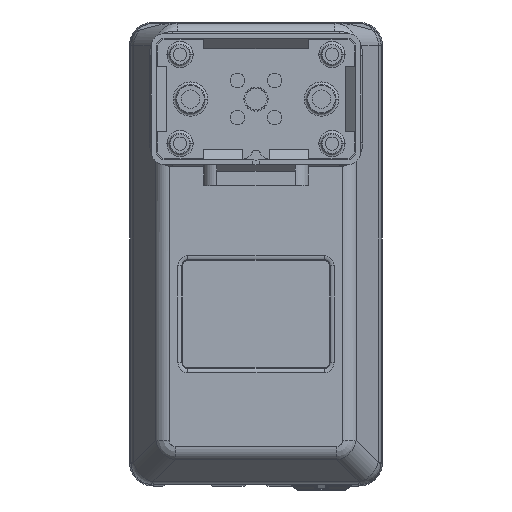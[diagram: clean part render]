
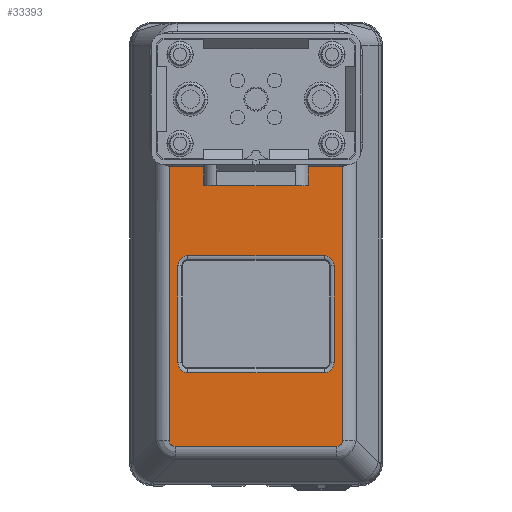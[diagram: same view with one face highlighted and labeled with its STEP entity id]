
A CAD part, front view. The second image highlights one B-rep face of the part: STEP entity #33393.
In plain terms, the highlighted planar face has unit normal (0, -1, 0) as drawn and (0, 1, 0) by its records, which use the part's own axes.
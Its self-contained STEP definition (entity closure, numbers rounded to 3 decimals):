
#19561=DIRECTION('',(0.,0.,-1.));
#19562=VECTOR('',#19561,104.654);
#19563=CARTESIAN_POINT('',(33.028,41.5,-54.559));
#19564=LINE('',#19563,#19562);
#19676=DIRECTION('',(0.,0.,1.));
#19677=VECTOR('',#19676,104.654);
#19678=CARTESIAN_POINT('',(-33.028,41.5,-159.213));
#19679=LINE('',#19678,#19677);
#19704=DIRECTION('',(-1.,0.,0.));
#19705=VECTOR('',#19704,61.725);
#19706=CARTESIAN_POINT('',(30.863,41.5,-161.378));
#19707=LINE('',#19706,#19705);
#19708=CARTESIAN_POINT('',(31.75,41.5,
-45.65));
#19709=DIRECTION('',(0.,1.,0.));
#19710=DIRECTION('',(0.142,0.,-0.99));
#19711=AXIS2_PLACEMENT_3D('',#19708,#19709,#19710);
#19713=CARTESIAN_POINT('',(-31.75,41.5,
-45.65));
#19714=DIRECTION('',(0.,1.,0.));
#19715=DIRECTION('',(0.,0.,-1.));
#19716=AXIS2_PLACEMENT_3D('',#19713,#19714,#19715);
#19718=CARTESIAN_POINT('',(-33.028,41.5,-159.213));
#19719=CARTESIAN_POINT('',(-33.028,41.5,-159.3));
#19720=CARTESIAN_POINT('',(-33.019,41.5,
-159.481));
#19721=CARTESIAN_POINT('',(-32.977,41.5,
-159.747));
#19722=CARTESIAN_POINT('',(-32.904,41.5,
-160.008));
#19723=CARTESIAN_POINT('',(-32.802,41.5,
-160.253));
#19724=CARTESIAN_POINT('',(-32.672,41.5,
-160.478));
#19725=CARTESIAN_POINT('',(-32.515,41.5,
-160.683));
#19726=CARTESIAN_POINT('',(-32.334,41.5,
-160.864));
#19727=CARTESIAN_POINT('',(-32.13,41.5,
-161.021));
#19728=CARTESIAN_POINT('',(-31.904,41.5,
-161.151));
#19729=CARTESIAN_POINT('',(-31.66,41.5,
-161.253));
#19730=CARTESIAN_POINT('',(-31.399,41.5,
-161.326));
#19731=CARTESIAN_POINT('',(-31.132,41.5,
-161.368));
#19732=CARTESIAN_POINT('',(-30.95,41.5,-161.378));
#19733=CARTESIAN_POINT('',(-30.863,41.5,-161.378));
#19735=CARTESIAN_POINT('',(30.863,41.5,-161.378));
#19736=CARTESIAN_POINT('',(30.95,41.5,-161.378));
#19737=CARTESIAN_POINT('',(31.132,41.5,
-161.368));
#19738=CARTESIAN_POINT('',(31.399,41.5,
-161.326));
#19739=CARTESIAN_POINT('',(31.66,41.5,
-161.253));
#19740=CARTESIAN_POINT('',(31.904,41.5,
-161.151));
#19741=CARTESIAN_POINT('',(32.13,41.5,
-161.021));
#19742=CARTESIAN_POINT('',(32.334,41.5,
-160.864));
#19743=CARTESIAN_POINT('',(32.515,41.5,
-160.683));
#19744=CARTESIAN_POINT('',(32.672,41.5,
-160.478));
#19745=CARTESIAN_POINT('',(32.802,41.5,
-160.253));
#19746=CARTESIAN_POINT('',(32.904,41.5,
-160.008));
#19747=CARTESIAN_POINT('',(32.977,41.5,
-159.747));
#19748=CARTESIAN_POINT('',(33.019,41.5,
-159.481));
#19749=CARTESIAN_POINT('',(33.028,41.5,-159.3));
#19750=CARTESIAN_POINT('',(33.028,41.5,-159.213));
#19752=CARTESIAN_POINT('',(26.,41.5,-129.5));
#19753=DIRECTION('',(0.,1.,0.));
#19754=DIRECTION('',(1.,0.,0.));
#19755=AXIS2_PLACEMENT_3D('',#19752,#19753,#19754);
#19757=CARTESIAN_POINT('',(-26.,41.5,-129.5));
#19758=DIRECTION('',(0.,1.,0.));
#19759=DIRECTION('',(0.,0.,-1.));
#19760=AXIS2_PLACEMENT_3D('',#19757,#19758,#19759);
#19762=CARTESIAN_POINT('',(-26.,41.5,-92.5));
#19763=DIRECTION('',(0.,1.,0.));
#19764=DIRECTION('',(-1.,0.,0.));
#19765=AXIS2_PLACEMENT_3D('',#19762,#19763,#19764);
#19767=CARTESIAN_POINT('',(26.,41.5,-92.5));
#19768=DIRECTION('',(0.,1.,0.));
#19769=DIRECTION('',(0.,0.,1.));
#19770=AXIS2_PLACEMENT_3D('',#19767,#19768,#19769);
#19776=DIRECTION('',(1.,0.,0.));
#19777=VECTOR('',#19776,63.5);
#19778=CARTESIAN_POINT('',(-31.75,41.5,-54.65));
#19779=LINE('',#19778,#19777);
#19818=DIRECTION('',(0.,0.,1.));
#19819=VECTOR('',#19818,37.);
#19820=CARTESIAN_POINT('',(29.803,41.5,-129.5));
#19821=LINE('',#19820,#19819);
#19832=DIRECTION('',(-1.,0.,0.));
#19833=VECTOR('',#19832,52.);
#19834=CARTESIAN_POINT('',(26.,41.5,-88.697));
#19835=LINE('',#19834,#19833);
#19846=DIRECTION('',(0.,0.,-1.));
#19847=VECTOR('',#19846,37.);
#19848=CARTESIAN_POINT('',(-29.803,41.5,-92.5));
#19849=LINE('',#19848,#19847);
#19860=DIRECTION('',(1.,0.,0.));
#19861=VECTOR('',#19860,52.);
#19862=CARTESIAN_POINT('',(-26.,41.5,-133.303));
#19863=LINE('',#19862,#19861);
#24416=CARTESIAN_POINT('',(33.028,41.5,-54.559));
#24417=CARTESIAN_POINT('',(31.75,41.5,-54.65));
#24418=VERTEX_POINT('',#24416);
#24419=VERTEX_POINT('',#24417);
#24420=CARTESIAN_POINT('',(-31.75,41.5,-54.65));
#24421=VERTEX_POINT('',#24420);
#24422=CARTESIAN_POINT('',(-33.028,41.5,-54.559));
#24423=VERTEX_POINT('',#24422);
#24424=CARTESIAN_POINT('',(-33.028,41.5,-159.213));
#24425=VERTEX_POINT('',#24424);
#24426=VERTEX_POINT('',#19733);
#24427=CARTESIAN_POINT('',(30.863,41.5,-161.378));
#24428=VERTEX_POINT('',#24427);
#24429=VERTEX_POINT('',#19750);
#24430=CARTESIAN_POINT('',(29.803,41.5,-129.5));
#24431=CARTESIAN_POINT('',(26.,41.5,-133.303));
#24432=VERTEX_POINT('',#24430);
#24433=VERTEX_POINT('',#24431);
#24434=CARTESIAN_POINT('',(-26.,41.5,-133.303));
#24435=VERTEX_POINT('',#24434);
#24436=CARTESIAN_POINT('',(-29.803,41.5,-129.5));
#24437=VERTEX_POINT('',#24436);
#24438=CARTESIAN_POINT('',(-29.803,41.5,-92.5));
#24439=VERTEX_POINT('',#24438);
#24440=CARTESIAN_POINT('',(-26.,41.5,-88.697));
#24441=VERTEX_POINT('',#24440);
#24442=CARTESIAN_POINT('',(26.,41.5,-88.697));
#24443=VERTEX_POINT('',#24442);
#24444=CARTESIAN_POINT('',(29.803,41.5,-92.5));
#24445=VERTEX_POINT('',#24444);
#33358=CARTESIAN_POINT('',(36.492,41.5,0.));
#33359=DIRECTION('',(0.,1.,0.));
#33360=DIRECTION('',(-1.,0.,0.));
#33361=AXIS2_PLACEMENT_3D('',#33358,#33359,#33360);
#33362=PLANE('',#33361);
#33363=ORIENTED_EDGE('',*,*,#33140,.T.);
#33365=ORIENTED_EDGE('',*,*,#33364,.F.);
#33367=ORIENTED_EDGE('',*,*,#33366,.T.);
#33368=ORIENTED_EDGE('',*,*,#33258,.F.);
#33369=ORIENTED_EDGE('',*,*,#33339,.T.);
#33370=ORIENTED_EDGE('',*,*,#33352,.F.);
#33371=ORIENTED_EDGE('',*,*,#33077,.T.);
#33372=ORIENTED_EDGE('',*,*,#33092,.F.);
#33373=EDGE_LOOP('',(#33363,#33365,#33367,#33368,#33369,#33370,#33371,#33372));
#33374=FACE_OUTER_BOUND('',#33373,.F.);
#33376=ORIENTED_EDGE('',*,*,#33375,.T.);
#33378=ORIENTED_EDGE('',*,*,#33377,.F.);
#33380=ORIENTED_EDGE('',*,*,#33379,.T.);
#33382=ORIENTED_EDGE('',*,*,#33381,.F.);
#33384=ORIENTED_EDGE('',*,*,#33383,.T.);
#33386=ORIENTED_EDGE('',*,*,#33385,.F.);
#33388=ORIENTED_EDGE('',*,*,#33387,.T.);
#33390=ORIENTED_EDGE('',*,*,#33389,.F.);
#33391=EDGE_LOOP('',(#33376,#33378,#33380,#33382,#33384,#33386,#33388,#33390));
#33392=FACE_BOUND('',#33391,.F.);
#19712=CIRCLE('',#19711,9.);
#19717=CIRCLE('',#19716,9.);
#19734=B_SPLINE_CURVE_WITH_KNOTS('',3,(#19718,#19719,#19720,#19721,#19722,
#19723,#19724,#19725,#19726,#19727,#19728,#19729,#19730,#19731,#19732,#19733),
.UNSPECIFIED.,.F.,.F.,(4,1,1,1,1,1,1,1,1,1,1,1,1,4),(0.,0.072,
0.151,0.229,0.307,0.384,
0.461,0.538,0.615,0.692,
0.77,0.848,0.927,1.),.UNSPECIFIED.);
#19751=B_SPLINE_CURVE_WITH_KNOTS('',3,(#19735,#19736,#19737,#19738,#19739,
#19740,#19741,#19742,#19743,#19744,#19745,#19746,#19747,#19748,#19749,#19750),
.UNSPECIFIED.,.F.,.F.,(4,1,1,1,1,1,1,1,1,1,1,1,1,4),(0.,0.073,
0.152,0.23,0.308,0.385,
0.462,0.539,0.616,0.693,
0.771,0.849,0.928,1.),.UNSPECIFIED.);
#19756=CIRCLE('',#19755,3.803);
#19761=CIRCLE('',#19760,3.803);
#19766=CIRCLE('',#19765,3.803);
#19771=CIRCLE('',#19770,3.803);
#33077=EDGE_CURVE('',#24428,#24429,#19751,.T.);
#33092=EDGE_CURVE('',#24418,#24429,#19564,.T.);
#33140=EDGE_CURVE('',#24418,#24419,#19712,.T.);
#33258=EDGE_CURVE('',#24425,#24423,#19679,.T.);
#33339=EDGE_CURVE('',#24425,#24426,#19734,.T.);
#33352=EDGE_CURVE('',#24428,#24426,#19707,.T.);
#33364=EDGE_CURVE('',#24421,#24419,#19779,.T.);
#33366=EDGE_CURVE('',#24421,#24423,#19717,.T.);
#33375=EDGE_CURVE('',#24432,#24433,#19756,.T.);
#33377=EDGE_CURVE('',#24435,#24433,#19863,.T.);
#33379=EDGE_CURVE('',#24435,#24437,#19761,.T.);
#33381=EDGE_CURVE('',#24439,#24437,#19849,.T.);
#33383=EDGE_CURVE('',#24439,#24441,#19766,.T.);
#33385=EDGE_CURVE('',#24443,#24441,#19835,.T.);
#33387=EDGE_CURVE('',#24443,#24445,#19771,.T.);
#33389=EDGE_CURVE('',#24432,#24445,#19821,.T.);
#33393=ADVANCED_FACE('',(#33374,#33392),#33362,.T.);
